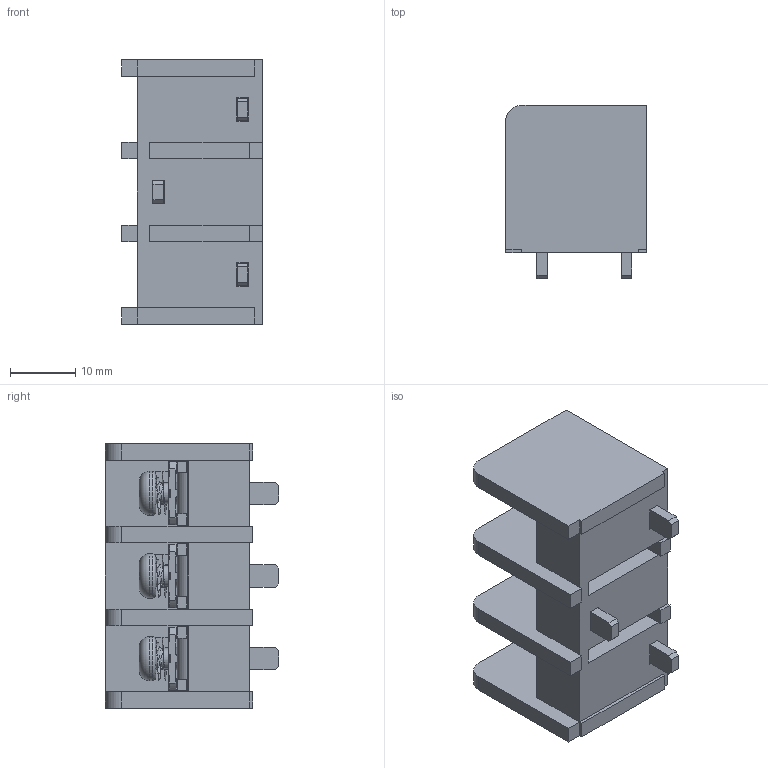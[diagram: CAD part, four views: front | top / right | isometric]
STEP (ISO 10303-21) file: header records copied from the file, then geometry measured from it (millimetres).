
FILE_DESCRIPTION((''),'2;1');
FILE_NAME('3PIN','2021-06-02T',('hanke'),(''),'CREO PARAMETRIC BY PTC INC, 2016260','CREO PARAMETRIC BY PTC INC, 2016260','');
FILE_SCHEMA(('CONFIG_CONTROL_DESIGN'));
Products named in the file (1): 3PIN
Bounding box: 21.6 x 26.6 x 40.64 mm (x, y, z)
Volume: 10060.2 mm3; surface area: 11295 mm2
Topology: 4 solids, 4 shells, 1366 faces, 4057 edges, 2612 vertices
Faces by surface type: plane 705, cylinder 364, torus 150, bspline 123, cone 24
Entity records: 58042 total; most frequent: CARTESIAN_POINT 21727, ORIENTED_EDGE 8102, DIRECTION 7151, EDGE_CURVE 4051, VERTEX_POINT 2612, VECTOR 2453, LINE 2453, AXIS2_PLACEMENT_3D 2349
